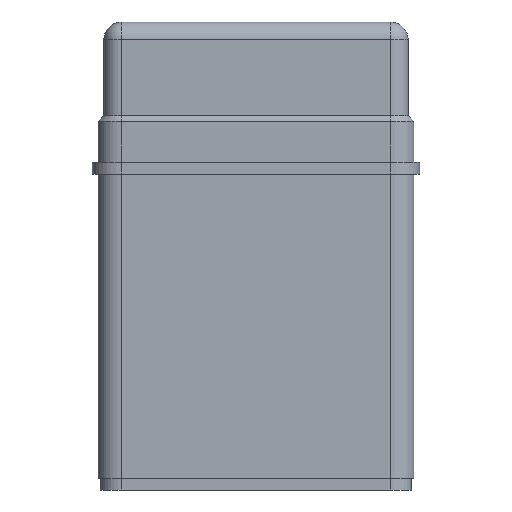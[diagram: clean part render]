
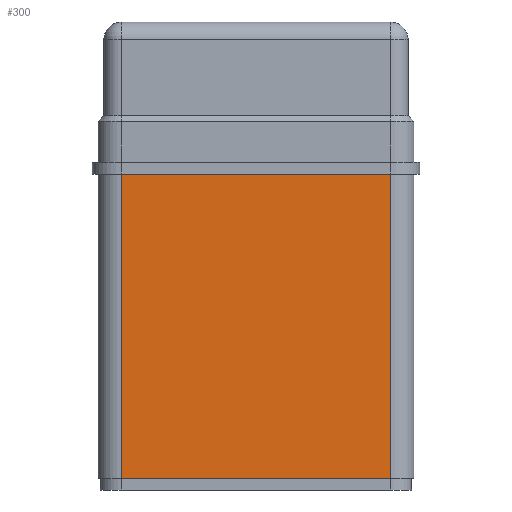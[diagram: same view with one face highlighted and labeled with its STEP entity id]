
A CAD part, left-side view. The second image highlights one B-rep face of the part: STEP entity #300.
In plain terms, the highlighted planar face has unit normal (-1, 0, 0).
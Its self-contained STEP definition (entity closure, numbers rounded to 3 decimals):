
#300=ADVANCED_FACE('', (#310), #320, .T.);
#3940=AXIS2_PLACEMENT_3D('Ax2Pl3d', #3950, #3960, #3970);
#12470=CARTESIAN_POINT('', (-0.2,24.8,27.));
#12480=CARTESIAN_POINT('', (-0.2,1.8,27.));
#12490=CARTESIAN_POINT('', (-0.2,1.8,27.));
#12690=CARTESIAN_POINT('', (-0.2,24.8,1.));
#12700=CARTESIAN_POINT('', (-0.2,24.8,1.));
#3950=CARTESIAN_POINT('HicPkt', (-0.2,24.8,1.));
#12710=CARTESIAN_POINT('', (-0.2,24.8,1.));
#12720=CARTESIAN_POINT('', (-0.2,1.8,1.));
#12730=CARTESIAN_POINT('', (-0.2,1.8,27.));
#22730=DIRECTION('', (0.,-1.,0.));
#22830=DIRECTION('', (0.,0.,-1.));
#3960=DIRECTION('Axis', (-1.,0.,0.)
);
#3970=DIRECTION('RefDirection', (0.,
0.,-1.));
#22840=DIRECTION('', (0.,1.,0.));
#22850=DIRECTION('', (0.,0.,1.));
#24330=EDGE_CURVE('', #24320, #24340, #24350, .T.);
#24710=EDGE_CURVE('', #24320, #24700, #24720, .T.);
#24730=EDGE_CURVE('', #24740, #24700, #24750, .T.);
#24760=EDGE_CURVE('', #24740, #24340, #24770, .T.);
#28990=EDGE_LOOP('Edge_loop', (#29000,#29010,#29020,#29030));
#310=FACE_OUTER_BOUND('Face_outer_bound', #28990, .T.);
#24350=LINE('Line', #12480, #35900);
#24720=LINE('Line', #12700, #36000);
#24750=LINE('Line', #12710, #36010);
#24770=LINE('Line', #12730, #36020);
#29000=ORIENTED_EDGE('', *, *, #24330, .F.);
#29010=ORIENTED_EDGE('', *, *, #24710, .T.);
#29020=ORIENTED_EDGE('', *, *, #24730, .F.);
#29030=ORIENTED_EDGE('', *, *, #24760, .T.);
#320=PLANE('Plane', #3940);
#35900=VECTOR('', #22730, 23.);
#36000=VECTOR('', #22830, 26.);
#36010=VECTOR('', #22840, 23.);
#36020=VECTOR('', #22850, 26.);
#24320=VERTEX_POINT('', #12470);
#24340=VERTEX_POINT('', #12490);
#24700=VERTEX_POINT('', #12690);
#24740=VERTEX_POINT('', #12720);
